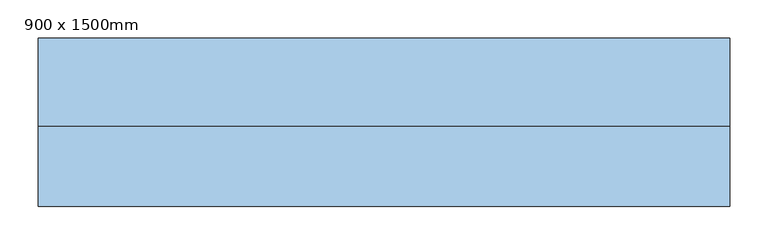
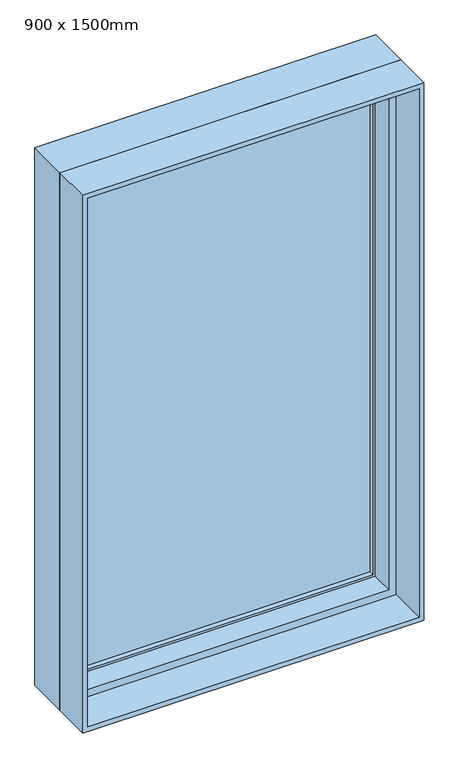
"""IFC4 building model written with IfcOpenShell, lengths in millimetres: window geometry, M_Okno, pevné : 900 x 1500mm."""

from ifc_helpers import new_model, si_unit, frame, origin, place, context, project, spatial, polyline, outline, extrude, faceted_brep, source, transform, mapped, element, save


def window_900_x_1500mm_3ca1c44a(model_context):
    return source(origin(), model_context, "Body", "SolidModel", [
        faceted_brep([(450.0, 4.75, 2400.0), (450.0, 119.05, 2400.0), (-450.0, 119.05, 2400.0), (-450.0, 4.75, 2400.0), (-450.0, 119.05, 900.0), (-450.0, 4.75, 900.0), (450.0, 119.05, 900.0), (450.0, 4.75, 900.0), (418.25, 4.75, 2368.25), (418.25, 4.75, 931.75), (-418.25, 4.75, 931.75), (-418.25, 4.75, 2368.25), (-437.3, 119.05, 2387.3), (-437.3, 119.05, 912.7), (437.3, 119.05, 912.7), (437.3, 119.05, 2387.3), (418.25, 68.25, 2368.25), (-418.25, 68.25, 2368.25), (437.3, 68.25, 2387.3), (-437.3, 68.25, 2387.3), (-418.25, 68.25, 931.75), (-437.3, 68.25, 912.7), (418.25, 68.25, 931.75), (437.3, 68.25, 912.7)], [[[0, 1, 2, 3]], [[3, 2, 4, 5]], [[5, 4, 6, 7]], [[3, 5, 7, 0], [8, 9, 10, 11]], [[7, 6, 1, 0]], [[1, 6, 4, 2], [12, 13, 14, 15]], [[16, 8, 11, 17]], [[15, 18, 19, 12]], [[17, 11, 10, 20]], [[12, 19, 21, 13]], [[20, 10, 9, 22]], [[13, 21, 23, 14]], [[22, 9, 8, 16]], [[18, 23, 21, 19], [17, 20, 22, 16]], [[14, 23, 18, 15]]]),
        extrude(outline(polyline([(2400.0, -450.0), (900.0, -450.0), (900.0, 450.0), (2400.0, 450.0), (2400.0, -450.0)]), holes=[polyline([(2387.3, 437.3), (912.7, 437.3), (912.7, -437.3), (2387.3, -437.3), (2387.3, 437.3)])]), frame((0.0, -100.0, 0.0), z_axis=(0.0, 1.0, 0.0), x_axis=(0.0, 0.0, 1.0)), (0.0, 0.0, 1.0), 104.75),
        extrude(outline(polyline([(912.7, 437.3), (2387.3, 437.3), (2387.3, -437.3), (912.7, -437.3), (912.7, 437.3)]), holes=[polyline([(938.1, -411.9), (2361.9, -411.9), (2361.9, 411.9), (938.1, 411.9), (938.1, -411.9)])]), frame((0.0, 68.25, 0.0), z_axis=(0.0, 1.0, 0.0), x_axis=(0.0, 0.0, 1.0)), (0.0, 0.0, 1.0), 44.45),
        extrude(outline(polyline([(411.9, 100.0), (411.9, 93.65), (-411.9, 93.65), (-411.9, 100.0), (411.9, 100.0)])), frame((0.0, 0.0, 938.1), z_axis=(0.0, 0.0, 1.0), x_axis=(1.0, 0.0, 0.0)), (0.0, 0.0, 1.0), 1423.8),
        extrude(outline(polyline([(-411.9, 80.95), (-411.9, 87.3), (411.9, 87.3), (411.9, 80.95), (-411.9, 80.95)])), frame((0.0, 0.0, 938.1), z_axis=(0.0, 0.0, 1.0), x_axis=(1.0, 0.0, 0.0)), (0.0, 0.0, 1.0), 1423.8),
    ])


if __name__ == "__main__":
    model = new_model("IFC4")
    model_context = context("Model", 3, world=origin())
    ifc_project = project(units=[si_unit("LENGTHUNIT", "METRE", prefix="MILLI")], contexts=[model_context])
    site = spatial("IfcSite", under=ifc_project)
    building = spatial("IfcBuilding", under=site)
    placement = place(None, origin())
    window_900_x_1500mm_shape = window_900_x_1500mm_3ca1c44a(model_context)
    element("IfcWindow", 1, ObjectType="M_Okno, pevné : 900 x 1500mm", at=placement, inside=building, context=model_context, shape_type="MappedRepresentation", body=[
        mapped(window_900_x_1500mm_shape, transform((0.0, 0.0, 0.0), x_axis=(1.0, 0.0, 0.0), y_axis=(0.0, 1.0, 0.0), z_axis=(0.0, 0.0, 1.0))),
    ])
    save(model, "model.ifc")
